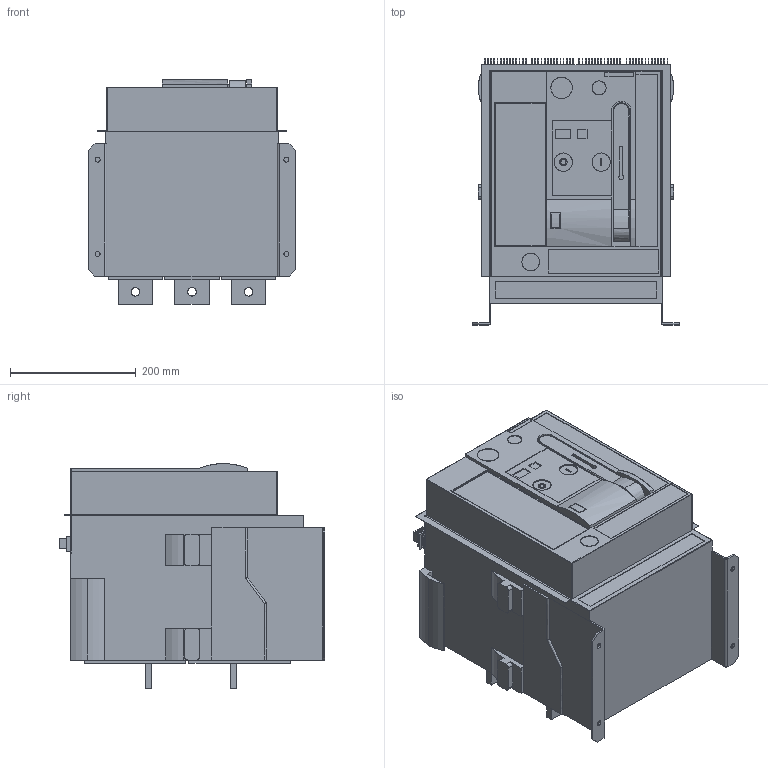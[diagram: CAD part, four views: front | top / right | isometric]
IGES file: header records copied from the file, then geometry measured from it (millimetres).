
Start section: SolidWorks IGES file using analytic representation for surfaces
Global section: file name: U:\14_RD\05_Technical_office\04_Office\Hrdinova\3D modely - IGES\Arion\ARION_WL1110-___32.IGS; native system: SolidWorks 2011; preprocessor: SolidWorks 2011; author: adhrja3; date: 170609.063803; units: millimetre
Bounding box: 328 x 422.4 x 357 mm (x, y, z)
Surface area: 961800.9 mm2 (no closed solid volume)
Topology: 0 solids, 0 shells, 1145 faces, 10080 edges, 10076 vertices
Faces by surface type: bspline 935, revolution 210
